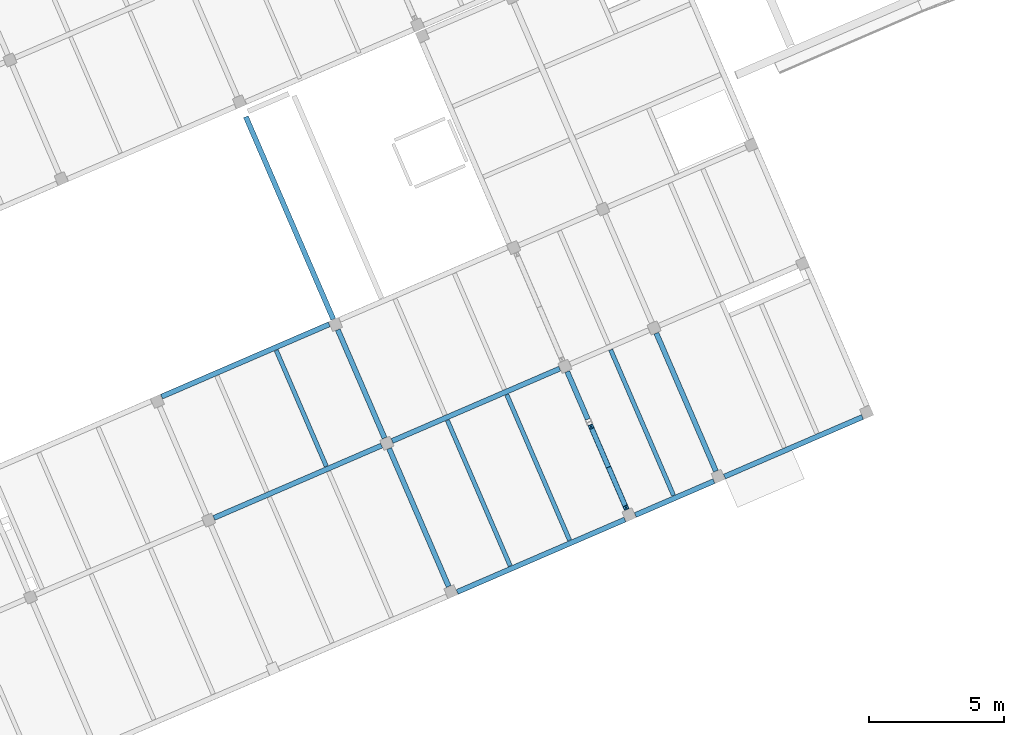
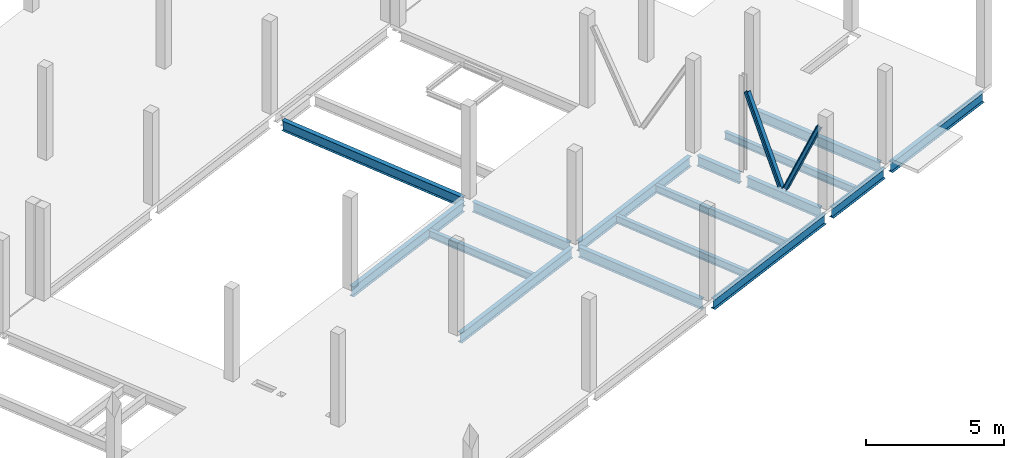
# One storey, part 10 of 24: 16 beams, 2 members.
"""IFC4 building model written with IfcOpenShell, lengths in metres."""

from ifc_helpers import new_model, entity, si_unit, converted_unit, derived_unit, direction, frame, origin, place, context, subcontext, project, spatial, line, arc, indexed_curve, outline, extrude, source, transform, mapped, material, type_object, type_shapes, element, save


model = new_model("IFC4")

# Units and contexts
model_context = context("Model", 3, precision=1e-05, world=origin(), true_north=direction((6.12323399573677e-17, 1.0)))
body_context = subcontext(model_context, "Body", "Model", "MODEL_VIEW")
ifc_project = project(units=[si_unit("LENGTHUNIT", "METRE"), si_unit("AREAUNIT", "SQUARE_METRE"), si_unit("VOLUMEUNIT", "CUBIC_METRE"), converted_unit("PLANEANGLEUNIT", "DEGREE", entity("IfcPlaneAngleMeasure", 0.0174532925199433), si_unit("PLANEANGLEUNIT", "RADIAN"), dimensions=[0, 0, 0, 0, 0, 0, 0]), si_unit("MASSUNIT", "GRAM", prefix="KILO"), derived_unit("MOMENTOFINERTIAUNIT", [(si_unit("LENGTHUNIT", "METRE"), 4)]), derived_unit("LINEARFORCEUNIT", [(si_unit("MASSUNIT", "GRAM", prefix="KILO"), 1), (si_unit("TIMEUNIT", "SECOND"), -2)]), derived_unit("WARPINGCONSTANTUNIT", [(si_unit("LENGTHUNIT", "METRE"), 6)]), derived_unit("THERMALTRANSMITTANCEUNIT", [(si_unit("MASSUNIT", "GRAM", prefix="KILO"), 1), (si_unit("THERMODYNAMICTEMPERATUREUNIT", "KELVIN"), -1), (si_unit("TIMEUNIT", "SECOND"), -3)]), derived_unit("USERDEFINED", [(si_unit("MASSUNIT", "GRAM", prefix="KILO"), 1), (si_unit("TIMEUNIT", "SECOND"), -2), (si_unit("THERMODYNAMICTEMPERATUREUNIT", "KELVIN"), -1)]), derived_unit("THERMALRESISTANCEUNIT", [(si_unit("MASSUNIT", "GRAM", prefix="KILO"), -1), (si_unit("TIMEUNIT", "SECOND"), 3), (si_unit("THERMODYNAMICTEMPERATUREUNIT", "KELVIN"), 1)])], contexts=[model_context])

# Site, building, storey
site_placement = place(None, origin())
site = spatial("IfcSite", under=ifc_project, at=site_placement, Name="Default", CompositionType="ELEMENT")
building_placement = place(site_placement, frame((12.6613425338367, -82.5732315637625, 317.15), z_axis=(0.0, 0.0, 1.0), x_axis=(-0.396377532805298, 0.918087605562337, 0.0)))
building = spatial("IfcBuilding", under=site, at=building_placement, Name="CESFAM Coyhaique", CompositionType="ELEMENT")
storey_placement = place(building_placement, frame((0.0, 0.0, 4.20000000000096)))
storey = spatial("IfcBuildingStorey", under=building, at=storey_placement, Name="Nivel 2", CompositionType="ELEMENT", Elevation=4.20000000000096)

# Beams
ifc_material = material(Name="Steel, 45-345", Category="Metal")
beam_type_1 = type_object("IfcBeamType", Name="M_W Shapes:W450X190mm", PredefinedType="BEAM", material=ifc_material)
shared_shape_1 = source(origin(), body_context, "Body", "SweptSolid", [
    extrude(outline(indexed_curve([(-0.225, -0.0950000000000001), (-0.215350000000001, -0.0950000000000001), (-0.21535, -0.01057), (-0.213109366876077, -0.00516063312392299), (-0.2077, -0.00291999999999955), (0.207699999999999, -0.00292000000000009), (0.213109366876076, -0.00516063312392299), (0.215349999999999, -0.01057), (0.215349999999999, -0.0950000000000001), (0.225, -0.0950000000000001), (0.225, 0.0950000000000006), (0.215349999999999, 0.0950000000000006), (0.215349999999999, 0.0105700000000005), (0.213109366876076, 0.00516063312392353), (0.207699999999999, 0.00292000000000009), (-0.2077, 0.00292000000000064), (-0.213109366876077, 0.00516063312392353), (-0.215350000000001, 0.0105700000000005), (-0.215350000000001, 0.0949999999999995), (-0.225, 0.0949999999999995)], segments=[line(1, 2, 3), arc(3, 4, 5), line(5, 6), arc(6, 7, 8), line(8, 9, 10, 11, 12, 13), arc(13, 14, 15), line(15, 16), arc(16, 17, 18), line(18, 19, 20, 1)], self_intersect=False)), frame((4.3815534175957, -4.39714959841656, 3.82500000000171), z_axis=(1.0, 0.0, 0.0), x_axis=(0.0, 0.0, -1.0)), (0.0, 0.0, 1.0), 5.5746),
])
type_shapes(beam_type_1, [shared_shape_1])
beam_1_placement = place(storey_placement, frame((0.0, 0.0, -4.20000000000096)))
element("IfcBeam", 1, at=beam_1_placement, inside=storey, type_object=beam_type_1, Name="M_W Shapes:W450X190mm", ObjectType="M_W Shapes:W450X190mm", PredefinedType="BEAM", context=body_context, shape_type="MappedRepresentation", body=[
    mapped(shared_shape_1, transform((0.0, 0.0, 0.0), scale=1.0)),
])
beam_type_2 = type_object("IfcBeamType", Name="M_W Shapes:W450X190mm", PredefinedType="BEAM", material=ifc_material)
shared_shape_2 = source(origin(), body_context, "Body", "SweptSolid", [
    extrude(outline(indexed_curve([(-0.225, -0.0950000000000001), (-0.215350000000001, -0.0950000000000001), (-0.21535, -0.0105699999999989), (-0.213109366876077, -0.00516063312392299), (-0.2077, -0.00291999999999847), (0.207699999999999, -0.00291999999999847), (0.213109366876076, -0.00516063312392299), (0.215349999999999, -0.0105699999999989), (0.215349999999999, -0.0950000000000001), (0.225, -0.0950000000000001), (0.225, 0.0950000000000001), (0.215349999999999, 0.0950000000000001), (0.215349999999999, 0.0105700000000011), (0.213109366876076, 0.00516063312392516), (0.207699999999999, 0.00292000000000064), (-0.2077, 0.00292000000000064), (-0.213109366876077, 0.00516063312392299), (-0.215350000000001, 0.0105700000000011), (-0.215350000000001, 0.0950000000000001), (-0.225, 0.0950000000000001)], segments=[line(1, 2, 3), arc(3, 4, 5), line(5, 6), arc(6, 7, 8), line(8, 9, 10, 11, 12, 13), arc(13, 14, 15), line(15, 16), arc(16, 17, 18), line(18, 19, 20, 1)], self_intersect=False)), frame((4.38155341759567, -11.5971495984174, 3.82500000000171), z_axis=(1.0, 0.0, 0.0), x_axis=(0.0, 0.0, -1.0)), (0.0, 0.0, 1.0), 3.32861394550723),
])
type_shapes(beam_type_2, [shared_shape_2])
beam_2_placement = place(storey_placement, frame((0.0, 0.0, -4.20000000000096)))
element("IfcBeam", 2, at=beam_2_placement, inside=storey, type_object=beam_type_2, Name="M_W Shapes:W450X190mm", ObjectType="M_W Shapes:W450X190mm", PredefinedType="BEAM", context=body_context, shape_type="MappedRepresentation", body=[
    mapped(shared_shape_2, transform((0.0, 0.0, 0.0), scale=1.0)),
])
beam_type_3 = type_object("IfcBeamType", Name="M_W Shapes:W450X190mm", PredefinedType="BEAM", material=ifc_material)
shared_shape_3 = source(origin(), body_context, "Body", "SweptSolid", [
    extrude(outline(indexed_curve([(-0.225, -0.0950000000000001), (-0.215350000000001, -0.0950000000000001), (-0.21535, -0.01057), (-0.213109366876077, -0.00516063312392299), (-0.2077, -0.00291999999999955), (0.207699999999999, -0.00292000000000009), (0.213109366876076, -0.00516063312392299), (0.215349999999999, -0.01057), (0.215349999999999, -0.0950000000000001), (0.225, -0.0950000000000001), (0.225, 0.0950000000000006), (0.215349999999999, 0.0950000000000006), (0.215349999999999, 0.0105700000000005), (0.213109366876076, 0.00516063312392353), (0.207699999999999, 0.00292000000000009), (-0.2077, 0.00292000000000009), (-0.213109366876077, 0.00516063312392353), (-0.215350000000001, 0.0105700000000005), (-0.215350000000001, 0.0949999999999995), (-0.225, 0.0950000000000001)], segments=[line(1, 2, 3), arc(3, 4, 5), line(5, 6), arc(6, 7, 8), line(8, 9, 10, 11, 12, 13), arc(13, 14, 15), line(15, 16), arc(16, 17, 18), line(18, 19, 20, 1)], self_intersect=False)), frame((10.3815534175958, -4.39714959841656, 3.82500000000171), z_axis=(1.0, 0.0, 0.0), x_axis=(0.0, 0.0, -1.0)), (0.0, 0.0, 1.0), 4.3746),
])
type_shapes(beam_type_3, [shared_shape_3])
beam_3_placement = place(storey_placement, frame((0.0, 0.0, -4.20000000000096)))
element("IfcBeam", 3, at=beam_3_placement, inside=storey, type_object=beam_type_3, Name="M_W Shapes:W450X190mm", ObjectType="M_W Shapes:W450X190mm", PredefinedType="BEAM", context=body_context, shape_type="MappedRepresentation", body=[
    mapped(shared_shape_3, transform((0.0, 0.0, 0.0), scale=1.0)),
])
beam_type_4 = type_object("IfcBeamType", Name="M_W Shapes:W450X190mm", PredefinedType="BEAM", material=ifc_material)
shared_shape_4 = source(origin(), body_context, "Body", "SweptSolid", [
    extrude(outline(indexed_curve([(-0.0950000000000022, -0.225000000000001), (0.0949999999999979, -0.225000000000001), (0.0949999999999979, -0.21535), (0.0105699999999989, -0.21535), (0.00516063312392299, -0.213109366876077), (0.00291999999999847, -0.2077), (0.00291999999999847, 0.207699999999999), (0.00516063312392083, 0.213109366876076), (0.0105699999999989, 0.21535), (0.0949999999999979, 0.21535), (0.0949999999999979, 0.224999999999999), (-0.0950000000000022, 0.224999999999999), (-0.0950000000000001, 0.21535), (-0.0105700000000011, 0.215349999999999), (-0.00516063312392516, 0.213109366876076), (-0.00292000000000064, 0.207699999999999), (-0.00292000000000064, -0.2077), (-0.00516063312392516, -0.213109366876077), (-0.0105700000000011, -0.21535), (-0.0950000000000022, -0.21535)], segments=[line(1, 2, 3, 4), arc(4, 5, 6), line(6, 7), arc(7, 8, 9), line(9, 10, 11, 12, 13, 14), arc(14, 15, 16), line(16, 17), arc(17, 18, 19), line(19, 20, 1)], self_intersect=False)), frame((10.1688534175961, -4.18444959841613, 3.82500000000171), z_axis=(0.0, 1.0, 0.0), x_axis=(-1.0, 0.0, 0.0)), (0.0, 0.0, 1.0), 6.7746),
])
type_shapes(beam_type_4, [shared_shape_4])
beam_4_placement = place(storey_placement, frame((0.0, 0.0, -4.20000000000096)))
element("IfcBeam", 4, at=beam_4_placement, inside=storey, type_object=beam_type_4, Name="M_W Shapes:W450X190mm", ObjectType="M_W Shapes:W450X190mm", PredefinedType="BEAM", context=body_context, shape_type="MappedRepresentation", body=[
    mapped(shared_shape_4, transform((0.0, 0.0, 0.0), scale=1.0)),
])
beam_type_5 = type_object("IfcBeamType", Name="M_W Shapes:W450X190mm", PredefinedType="BEAM", material=ifc_material)
shared_shape_5 = source(origin(), body_context, "Body", "SweptSolid", [
    extrude(outline(indexed_curve([(-0.0950000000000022, -0.225000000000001), (0.0949999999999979, -0.225000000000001), (0.0949999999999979, -0.21535), (0.0105699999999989, -0.21535), (0.00516063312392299, -0.213109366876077), (0.00291999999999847, -0.2077), (0.00291999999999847, 0.207699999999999), (0.00516063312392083, 0.213109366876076), (0.0105699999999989, 0.21535), (0.0949999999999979, 0.21535), (0.0949999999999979, 0.224999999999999), (-0.0950000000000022, 0.224999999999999), (-0.0950000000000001, 0.21535), (-0.0105700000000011, 0.215349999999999), (-0.00516063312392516, 0.213109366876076), (-0.00292000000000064, 0.207699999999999), (-0.00292000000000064, -0.2077), (-0.00516063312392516, -0.213109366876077), (-0.0105700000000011, -0.21535), (-0.0950000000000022, -0.21535)], segments=[line(1, 2, 3, 4), arc(4, 5, 6), line(6, 7), arc(7, 8, 9), line(9, 10, 11, 12, 13, 14), arc(14, 15, 16), line(16, 17), arc(17, 18, 19), line(19, 20, 1)], self_intersect=False)), frame((15.0688534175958, -4.18444959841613, 3.82500000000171), z_axis=(0.0, 1.0, 0.0), x_axis=(-1.0, 0.0, 0.0)), (0.0, 0.0, 1.0), 6.7746),
])
type_shapes(beam_type_5, [shared_shape_5])
beam_5_placement = place(storey_placement, frame((0.0, 0.0, -4.20000000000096)))
element("IfcBeam", 5, at=beam_5_placement, inside=storey, type_object=beam_type_5, Name="M_W Shapes:W450X190mm", ObjectType="M_W Shapes:W450X190mm", PredefinedType="BEAM", context=body_context, shape_type="MappedRepresentation", body=[
    mapped(shared_shape_5, transform((0.0, 0.0, 0.0), scale=1.0)),
])
beam_type_6 = type_object("IfcBeamType", Name="M_W Shapes:W450X190mm", PredefinedType="BEAM", material=ifc_material)
shared_shape_6 = source(origin(), body_context, "Body", "SweptSolid", [
    extrude(outline(indexed_curve([(-0.0950000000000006, -0.225000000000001), (0.0950000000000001, -0.225000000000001), (0.0950000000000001, -0.21535), (0.01057, -0.21535), (0.00516063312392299, -0.213109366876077), (0.00291999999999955, -0.2077), (0.00291999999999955, 0.207699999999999), (0.00516063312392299, 0.213109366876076), (0.01057, 0.21535), (0.094999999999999, 0.21535), (0.0949999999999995, 0.224999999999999), (-0.0950000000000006, 0.224999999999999), (-0.0950000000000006, 0.21535), (-0.0105700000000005, 0.215349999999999), (-0.00516063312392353, 0.213109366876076), (-0.00292000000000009, 0.207699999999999), (-0.00292000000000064, -0.2077), (-0.00516063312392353, -0.213109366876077), (-0.0105700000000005, -0.21535), (-0.0950000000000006, -0.21535)], segments=[line(1, 2, 3, 4), arc(4, 5, 6), line(6, 7), arc(7, 8, 9), line(9, 10, 11, 12, 13, 14), arc(14, 15, 16), line(16, 17), arc(17, 18, 19), line(19, 20, 1)], self_intersect=False)), frame((4.06885341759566, -11.384449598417, 3.82500000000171), z_axis=(0.0, 1.0, 0.0), x_axis=(-1.0, 0.0, 0.0)), (0.0, 0.0, 1.0), 6.7746),
])
type_shapes(beam_type_6, [shared_shape_6])
beam_6_placement = place(storey_placement, frame((0.0, 0.0, -4.20000000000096)))
element("IfcBeam", 6, at=beam_6_placement, inside=storey, type_object=beam_type_6, Name="M_W Shapes:W450X190mm", ObjectType="M_W Shapes:W450X190mm", PredefinedType="BEAM", context=body_context, shape_type="MappedRepresentation", body=[
    mapped(shared_shape_6, transform((0.0, 0.0, 0.0), scale=1.0)),
])
beam_type_7 = type_object("IfcBeamType", Name="M_W Shapes:W450X190mm", PredefinedType="BEAM", material=ifc_material)
shared_shape_7 = source(origin(), body_context, "Body", "SweptSolid", [
    extrude(outline(indexed_curve([(-0.0950000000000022, -0.225000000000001), (0.0949999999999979, -0.225000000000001), (0.0949999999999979, -0.21535), (0.0105699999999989, -0.21535), (0.00516063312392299, -0.213109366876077), (0.00291999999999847, -0.2077), (0.00291999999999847, 0.207699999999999), (0.00516063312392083, 0.213109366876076), (0.0105699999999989, 0.21535), (0.0949999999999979, 0.21535), (0.0949999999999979, 0.224999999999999), (-0.0950000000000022, 0.224999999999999), (-0.0950000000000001, 0.21535), (-0.0105700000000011, 0.215349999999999), (-0.00516063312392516, 0.213109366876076), (-0.00292000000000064, 0.207699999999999), (-0.00292000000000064, -0.2077), (-0.00516063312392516, -0.213109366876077), (-0.0105700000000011, -0.21535), (-0.0950000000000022, -0.21535)], segments=[line(1, 2, 3, 4), arc(4, 5, 6), line(6, 7), arc(7, 8, 9), line(9, 10, 11, 12, 13, 14), arc(14, 15, 16), line(16, 17), arc(17, 18, 19), line(19, 20, 1)], self_intersect=False)), frame((10.1688534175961, -11.384449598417, 3.82500000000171), z_axis=(0.0, 1.0, 0.0), x_axis=(-1.0, 0.0, 0.0)), (0.0, 0.0, 1.0), 6.7746),
])
type_shapes(beam_type_7, [shared_shape_7])
beam_7_placement = place(storey_placement, frame((0.0, 0.0, -4.20000000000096)))
element("IfcBeam", 7, at=beam_7_placement, inside=storey, type_object=beam_type_7, Name="M_W Shapes:W450X190mm", ObjectType="M_W Shapes:W450X190mm", PredefinedType="BEAM", context=body_context, shape_type="MappedRepresentation", body=[
    mapped(shared_shape_7, transform((0.0, 0.0, 0.0), scale=1.0)),
])
beam_type_8 = type_object("IfcBeamType", Name="M_W Shapes:W450X190mm", PredefinedType="BEAM", material=ifc_material)
shared_shape_8 = source(origin(), body_context, "Body", "SweptSolid", [
    extrude(outline(indexed_curve([(-0.0949999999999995, -0.225000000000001), (0.0950000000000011, -0.225000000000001), (0.0950000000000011, -0.21535), (0.0105700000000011, -0.21535), (0.00516063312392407, -0.213109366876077), (0.00292000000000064, -0.2077), (0.00292000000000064, 0.207699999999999), (0.00516063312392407, 0.213109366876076), (0.0105700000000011, 0.21535), (0.0950000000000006, 0.21535), (0.0950000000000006, 0.224999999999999), (-0.0949999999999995, 0.224999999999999), (-0.0949999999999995, 0.21535), (-0.0105699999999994, 0.215349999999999), (-0.00516063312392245, 0.213109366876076), (-0.00291999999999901, 0.207699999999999), (-0.00291999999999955, -0.2077), (-0.00516063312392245, -0.213109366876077), (-0.0105699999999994, -0.21535), (-0.0949999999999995, -0.21535)], segments=[line(1, 2, 3, 4), arc(4, 5, 6), line(6, 7), arc(7, 8, 9), line(9, 10, 11, 12, 13, 14), arc(14, 15, 16), line(16, 17), arc(17, 18, 19), line(19, 20, 1)], self_intersect=False)), frame((4.06885341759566, -14.9844495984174, 3.82500000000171), z_axis=(0.0, 1.0, 0.0), x_axis=(-1.0, 0.0, 0.0)), (0.0, 0.0, 1.0), 3.1746),
])
type_shapes(beam_type_8, [shared_shape_8])
beam_8_placement = place(storey_placement, frame((0.0, 0.0, -4.20000000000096)))
element("IfcBeam", 8, at=beam_8_placement, inside=storey, type_object=beam_type_8, Name="M_W Shapes:W450X190mm", ObjectType="M_W Shapes:W450X190mm", PredefinedType="BEAM", context=body_context, shape_type="MappedRepresentation", body=[
    mapped(shared_shape_8, transform((0.0, 0.0, 0.0), scale=1.0)),
])
beam_type_9 = type_object("IfcBeamType", Name="M_W Shapes:W450X190mm", PredefinedType="BEAM", material=ifc_material)
shared_shape_9 = source(origin(), body_context, "Body", "SweptSolid", [
    extrude(outline(indexed_curve([(-0.225, -0.0949999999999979), (-0.215350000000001, -0.0949999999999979), (-0.21535, -0.0105699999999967), (-0.213109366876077, -0.00516063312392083), (-0.2077, -0.0029199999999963), (0.207699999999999, -0.0029199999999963), (0.213109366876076, -0.00516063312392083), (0.215349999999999, -0.0105699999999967), (0.215349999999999, -0.0949999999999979), (0.225, -0.0949999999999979), (0.225, 0.0950000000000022), (0.215349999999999, 0.0950000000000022), (0.215349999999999, 0.0105700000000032), (0.213109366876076, 0.00516063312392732), (0.207699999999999, 0.0029200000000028), (-0.2077, 0.0029200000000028), (-0.213109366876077, 0.00516063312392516), (-0.215350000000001, 0.0105700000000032), (-0.215350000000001, 0.0950000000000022), (-0.225, 0.0950000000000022)], segments=[line(1, 2, 3), arc(3, 4, 5), line(5, 6), arc(6, 7, 8), line(8, 9, 10, 11, 12, 13), arc(13, 14, 15), line(15, 16), arc(16, 17, 18), line(18, 19, 20, 1)], self_intersect=False)), frame((4.38155341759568, -15.1971495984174, 3.82500000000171), z_axis=(1.0, 0.0, 0.0), x_axis=(0.0, 0.0, -1.0)), (0.0, 0.0, 1.0), 5.5746),
])
type_shapes(beam_type_9, [shared_shape_9])
beam_9_placement = place(storey_placement, frame((0.0, 0.0, -4.20000000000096)))
element("IfcBeam", 9, at=beam_9_placement, inside=storey, type_object=beam_type_9, Name="M_W Shapes:W450X190mm", ObjectType="M_W Shapes:W450X190mm", PredefinedType="BEAM", context=body_context, shape_type="MappedRepresentation", body=[
    mapped(shared_shape_9, transform((0.0, 0.0, 0.0), scale=1.0)),
])
beam_type_10 = type_object("IfcBeamType", Name="M_W Shapes:W450X190mm", PredefinedType="BEAM", material=ifc_material)
shared_shape_10 = source(origin(), body_context, "Body", "SweptSolid", [
    extrude(outline(indexed_curve([(-0.0950000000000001, -0.225000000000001), (0.0950000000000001, -0.225000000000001), (0.0950000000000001, -0.21535), (0.01057, -0.21535), (0.00516063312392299, -0.213109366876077), (0.00291999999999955, -0.2077), (0.00292000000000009, 0.207699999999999), (0.00516063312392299, 0.213109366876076), (0.01057, 0.21535), (0.0949999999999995, 0.21535), (0.0949999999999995, 0.224999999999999), (-0.0950000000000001, 0.224999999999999), (-0.0950000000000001, 0.21535), (-0.0105700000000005, 0.215349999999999), (-0.00516063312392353, 0.213109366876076), (-0.00292000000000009, 0.207699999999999), (-0.00292000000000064, -0.2077), (-0.00516063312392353, -0.213109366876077), (-0.0105700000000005, -0.21535), (-0.0950000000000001, -0.21535)], segments=[line(1, 2, 3, 4), arc(4, 5, 6), line(6, 7), arc(7, 8, 9), line(9, 10, 11, 12, 13, 14), arc(14, 15, 16), line(16, 17), arc(17, 18, 19), line(19, 20, 1)], self_intersect=False)), frame((4.06885341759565, -20.9844495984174, 3.82500000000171), z_axis=(0.0, 1.0, 0.0), x_axis=(-1.0, 0.0, 0.0)), (0.0, 0.0, 1.0), 5.5746),
])
type_shapes(beam_type_10, [shared_shape_10])
beam_10_placement = place(storey_placement, frame((0.0, 0.0, -4.20000000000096)))
element("IfcBeam", 10, at=beam_10_placement, inside=storey, type_object=beam_type_10, Name="M_W Shapes:W450X190mm", ObjectType="M_W Shapes:W450X190mm", PredefinedType="BEAM", context=body_context, shape_type="MappedRepresentation", body=[
    mapped(shared_shape_10, transform((0.0, 0.0, 0.0), scale=1.0)),
])
beam_type_11 = type_object("IfcBeamType", Name="M_W Shapes:W450X190mm", PredefinedType="BEAM", material=ifc_material)
shared_shape_11 = source(origin(), body_context, "Body", "SweptSolid", [
    extrude(outline(indexed_curve([(-0.225, -0.0950000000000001), (-0.215350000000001, -0.0950000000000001), (-0.21535, -0.0105699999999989), (-0.213109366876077, -0.00516063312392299), (-0.2077, -0.00291999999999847), (0.207699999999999, -0.00291999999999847), (0.213109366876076, -0.00516063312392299), (0.215349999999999, -0.0105699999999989), (0.215349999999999, -0.0950000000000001), (0.225, -0.0950000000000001), (0.225, 0.0950000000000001), (0.215349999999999, 0.0950000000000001), (0.215349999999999, 0.0105700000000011), (0.213109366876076, 0.00516063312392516), (0.207699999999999, 0.00292000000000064), (-0.2077, 0.00292000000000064), (-0.213109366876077, 0.00516063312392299), (-0.215350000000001, 0.0105700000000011), (-0.215350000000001, 0.0950000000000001), (-0.225, 0.0950000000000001)], segments=[line(1, 2, 3), arc(3, 4, 5), line(5, 6), arc(6, 7, 8), line(8, 9, 10, 11, 12, 13), arc(13, 14, 15), line(15, 16), arc(16, 17, 18), line(18, 19, 20, 1)], self_intersect=False)), frame((8.03155341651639, -11.5971495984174, 3.82500000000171), z_axis=(1.0, 0.0, 0.0), x_axis=(0.0, 0.0, -1.0)), (0.0, 0.0, 1.0), 1.9246),
])
type_shapes(beam_type_11, [shared_shape_11])
beam_11_placement = place(storey_placement, frame((0.0, 0.0, -4.20000000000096)))
element("IfcBeam", 11, at=beam_11_placement, inside=storey, type_object=beam_type_11, Name="M_W Shapes:W450X190mm", ObjectType="M_W Shapes:W450X190mm", PredefinedType="BEAM", context=body_context, shape_type="MappedRepresentation", body=[
    mapped(shared_shape_11, transform((0.0, 0.0, 0.0), scale=1.0)),
])

# Members
member_type_1 = type_object("IfcMemberType", Name="M_Double C-Channel:doble T HEB 180", PredefinedType="BRACE", material=ifc_material)
shared_shape_12 = source(origin(), body_context, "Body", "SweptSolid", [
    extrude(outline(indexed_curve([(-0.045425, -0.0899999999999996), (0.0445749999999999, -0.0899999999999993), (0.0397422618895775, -0.0783327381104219), (0.0280749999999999, -0.0735000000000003), (-0.0272249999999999, -0.0647413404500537), (-0.0272249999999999, 0.0647413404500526), (0.0280750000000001, 0.0734999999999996), (0.0397422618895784, 0.078332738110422), (0.044575, 0.0900000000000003), (-0.045425, 0.0900000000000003)], segments=[line(1, 2), arc(2, 3, 4), line(4, 5, 6, 7), arc(7, 8, 9), line(9, 10, 1)], self_intersect=False)), frame((-2.32011616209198, -0.0454249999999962, 0.0), z_axis=(1.0, 0.0, 0.0), x_axis=(0.0, -1.0, 0.0)), (0.0, 0.0, 1.0), 3.75808870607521),
    extrude(outline(indexed_curve([(-0.0899999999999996, -0.045425), (0.0900000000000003, -0.045425), (0.0900000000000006, 0.044575), (0.0783327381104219, 0.0397422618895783), (0.0734999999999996, 0.028075), (0.0647413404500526, -0.0272249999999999), (-0.0647413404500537, -0.0272249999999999), (-0.0735000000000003, 0.0280749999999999), (-0.0783327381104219, 0.0397422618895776), (-0.0899999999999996, 0.0445749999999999)], segments=[line(1, 2, 3), arc(3, 4, 5), line(5, 6, 7, 8), arc(8, 9, 10), line(10, 1)], self_intersect=False)), frame((-2.32011616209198, 0.0454250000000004, 0.0), z_axis=(1.0, 0.0, 0.0), x_axis=(0.0, 0.0, -1.0)), (0.0, 0.0, 1.0), 3.75808870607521),
])
type_shapes(member_type_1, [shared_shape_12])
member_1_placement = place(storey_placement, frame((5.04937096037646, -11.5971495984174, 2.08786676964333), z_axis=(0.910916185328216, 0.0, 0.412591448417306), x_axis=(-0.412591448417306, 0.0, 0.910916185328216)))
element("IfcMember", 12, at=member_1_placement, inside=storey, type_object=member_type_1, Name="M_Double C-Channel:doble T HEB 180", ObjectType="M_Double C-Channel:doble T HEB 180", PredefinedType="BRACE", context=body_context, shape_type="MappedRepresentation", body=[
    mapped(shared_shape_12, transform((0.0, 0.0, 0.0), scale=1.0)),
])
member_type_2 = type_object("IfcMemberType", Name="M_Double C-Channel:doble T HEB 180", PredefinedType="BRACE", material=ifc_material)
shared_shape_13 = source(origin(), body_context, "Body", "SweptSolid", [
    extrude(outline(indexed_curve([(-0.0899999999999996, -0.045425), (0.0900000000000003, -0.045425), (0.0900000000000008, 0.044575), (0.078332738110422, 0.0397422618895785), (0.0734999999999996, 0.028075), (0.0647413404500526, -0.0272249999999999), (-0.0647413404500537, -0.0272249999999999), (-0.0735000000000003, 0.0280749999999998), (-0.0783327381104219, 0.0397422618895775), (-0.0899999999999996, 0.0445749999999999)], segments=[line(1, 2, 3), arc(3, 4, 5), line(5, 6, 7, 8), arc(8, 9, 10), line(10, 1)], self_intersect=False)), frame((-2.29993513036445, 0.0454249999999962, 0.0), z_axis=(1.0, 0.0, 0.0), x_axis=(0.0, 0.0, -1.0)), (0.0, 0.0, 1.0), 3.9272527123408),
    extrude(outline(indexed_curve([(-0.045425, -0.0899999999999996), (0.0445749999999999, -0.0899999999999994), (0.0397422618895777, -0.078332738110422), (0.0280749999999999, -0.0735000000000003), (-0.0272249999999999, -0.0647413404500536), (-0.0272249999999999, 0.0647413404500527), (0.0280749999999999, 0.0734999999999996), (0.0397422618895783, 0.0783327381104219), (0.044575, 0.0900000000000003), (-0.045425, 0.0900000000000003)], segments=[line(1, 2), arc(2, 3, 4), line(4, 5, 6, 7), arc(7, 8, 9), line(9, 10, 1)], self_intersect=False)), frame((-2.29993513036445, -0.0454250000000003, 0.0), z_axis=(1.0, 0.0, 0.0), x_axis=(0.0, -1.0, 0.0)), (0.0, 0.0, 1.0), 3.9272527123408),
])
type_shapes(member_type_2, [shared_shape_13])
member_2_placement = place(storey_placement, frame((7.08905128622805, -11.5971495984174, 2.08948856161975), z_axis=(-0.918865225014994, 0.0, 0.394571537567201), x_axis=(0.3945715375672, 0.0, 0.918865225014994)))
element("IfcMember", 13, at=member_2_placement, inside=storey, type_object=member_type_2, Name="M_Double C-Channel:doble T HEB 180", ObjectType="M_Double C-Channel:doble T HEB 180", PredefinedType="BRACE", context=body_context, shape_type="MappedRepresentation", body=[
    mapped(shared_shape_13, transform((0.0, 0.0, 0.0), scale=1.0)),
])

# Beams
beam_type_12 = type_object("IfcBeamType", Name="M_W Shapes:W330X160mm", PredefinedType="BEAM", material=ifc_material)
shared_shape_14 = source(origin(), body_context, "Body", "SweptSolid", [
    extrude(outline(indexed_curve([(-0.164999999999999, -0.0799999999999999), (-0.15535, -0.0799999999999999), (-0.15535, -0.0105699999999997), (-0.153109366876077, -0.00516063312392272), (-0.1477, -0.00291999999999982), (0.1477, -0.00291999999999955), (0.153109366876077, -0.00516063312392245), (0.15535, -0.0105699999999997), (0.15535, -0.0799999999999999), (0.165, -0.0799999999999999), (0.165000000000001, 0.0800000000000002), (0.15535, 0.0800000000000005), (0.15535, 0.0105700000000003), (0.153109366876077, 0.00516063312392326), (0.1477, 0.00292000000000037), (-0.1477, 0.00292000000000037), (-0.153109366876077, 0.00516063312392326), (-0.15535, 0.0105700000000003), (-0.15535, 0.0799999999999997), (-0.164999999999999, 0.0799999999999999)], segments=[line(1, 2, 3), arc(3, 4, 5), line(5, 6), arc(6, 7, 8), line(8, 9, 10, 11, 12, 13), arc(13, 14, 15), line(15, 16), arc(16, 17, 18), line(18, 19, 20, 1)], self_intersect=False)), frame((10.2765534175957, -1.99714959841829, 3.88500000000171), z_axis=(1.0, 0.0, 0.0), x_axis=(0.0, 0.0, -1.0)), (0.0, 0.0, 1.0), 4.6846),
])
type_shapes(beam_type_12, [shared_shape_14])
beam_12_placement = place(storey_placement, frame((0.0, 0.0, -4.20000000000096)))
element("IfcBeam", 14, at=beam_12_placement, inside=storey, type_object=beam_type_12, Name="M_W Shapes:W330X160mm", ObjectType="M_W Shapes:W330X160mm", PredefinedType="BEAM", context=body_context, shape_type="MappedRepresentation", body=[
    mapped(shared_shape_14, transform((0.0, 0.0, 0.0), scale=1.0)),
])
beam_type_13 = type_object("IfcBeamType", Name="M_W Shapes:W330X160mm", PredefinedType="BEAM", material=ifc_material)
shared_shape_15 = source(origin(), body_context, "Body", "SweptSolid", [
    extrude(outline(indexed_curve([(-0.164999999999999, -0.0799999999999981), (-0.15535, -0.0799999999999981), (-0.15535, -0.0105699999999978), (-0.153109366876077, -0.00516063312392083), (-0.1477, -0.00291999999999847), (0.1477, -0.00291999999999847), (0.153109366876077, -0.00516063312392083), (0.15535, -0.0105699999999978), (0.15535, -0.0799999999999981), (0.165, -0.0799999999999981), (0.165, 0.0800000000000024), (0.15535, 0.0800000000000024), (0.15535, 0.0105700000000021), (0.153109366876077, 0.00516063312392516), (0.1477, 0.00292000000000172), (-0.1477, 0.00292000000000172), (-0.153109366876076, 0.00516063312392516), (-0.15535, 0.0105700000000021), (-0.15535, 0.0800000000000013), (-0.164999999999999, 0.0800000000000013)], segments=[line(1, 2, 3), arc(3, 4, 5), line(5, 6), arc(6, 7, 8), line(8, 9, 10, 11, 12, 13), arc(13, 14, 15), line(15, 16), arc(16, 17, 18), line(18, 19, 20, 1)], self_intersect=False)), frame((4.17655341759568, -6.7971495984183, 3.88500000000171), z_axis=(1.0, 0.0, 0.0), x_axis=(0.0, 0.0, -1.0)), (0.0, 0.0, 1.0), 5.8846),
])
type_shapes(beam_type_13, [shared_shape_15])
beam_13_placement = place(storey_placement, frame((0.0, 0.0, -4.20000000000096)))
element("IfcBeam", 15, at=beam_13_placement, inside=storey, type_object=beam_type_13, Name="M_W Shapes:W330X160mm", ObjectType="M_W Shapes:W330X160mm", PredefinedType="BEAM", context=body_context, shape_type="MappedRepresentation", body=[
    mapped(shared_shape_15, transform((0.0, 0.0, 0.0), scale=1.0)),
])
beam_type_14 = type_object("IfcBeamType", Name="M_W Shapes:W330X160mm", PredefinedType="BEAM", material=ifc_material)
shared_shape_16 = source(origin(), body_context, "Body", "SweptSolid", [
    extrude(outline(indexed_curve([(-0.164999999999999, -0.0800000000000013), (-0.15535, -0.0800000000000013), (-0.15535, -0.0105700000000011), (-0.153109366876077, -0.00516063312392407), (-0.1477, -0.00292000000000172), (0.1477, -0.00292000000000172), (0.153109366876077, -0.00516063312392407), (0.15535, -0.0105700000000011), (0.15535, -0.0800000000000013), (0.165, -0.0800000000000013), (0.165, 0.0799999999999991), (0.15535, 0.0799999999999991), (0.15535, 0.0105699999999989), (0.153109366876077, 0.00516063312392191), (0.1477, 0.00291999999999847), (-0.1477, 0.00291999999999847), (-0.153109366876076, 0.00516063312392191), (-0.15535, 0.0105699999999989), (-0.15535, 0.0799999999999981), (-0.164999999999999, 0.0799999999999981)], segments=[line(1, 2, 3), arc(3, 4, 5), line(5, 6), arc(6, 7, 8), line(8, 9, 10, 11, 12, 13), arc(13, 14, 15), line(15, 16), arc(16, 17, 18), line(18, 19, 20, 1)], self_intersect=False)), frame((4.17655341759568, -9.19714959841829, 3.88500000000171), z_axis=(1.0, 0.0, 0.0), x_axis=(0.0, 0.0, -1.0)), (0.0, 0.0, 1.0), 5.8846),
])
type_shapes(beam_type_14, [shared_shape_16])
beam_14_placement = place(storey_placement, frame((0.0, 0.0, -4.20000000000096)))
element("IfcBeam", 16, at=beam_14_placement, inside=storey, type_object=beam_type_14, Name="M_W Shapes:W330X160mm", ObjectType="M_W Shapes:W330X160mm", PredefinedType="BEAM", context=body_context, shape_type="MappedRepresentation", body=[
    mapped(shared_shape_16, transform((0.0, 0.0, 0.0), scale=1.0)),
])
beam_type_15 = type_object("IfcBeamType", Name="M_W Shapes:W330X160mm", PredefinedType="BEAM", material=ifc_material)
shared_shape_17 = source(origin(), body_context, "Body", "SweptSolid", [
    extrude(outline(indexed_curve([(-0.164999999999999, -0.0799999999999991), (-0.15535, -0.0799999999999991), (-0.15535, -0.0105699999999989), (-0.153109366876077, -0.00516063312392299), (-0.1477, -0.00291999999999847), (0.1477, -0.00291999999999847), (0.153109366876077, -0.00516063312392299), (0.15535, -0.0105699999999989), (0.15535, -0.0799999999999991), (0.165, -0.0799999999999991), (0.165, 0.0800000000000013), (0.15535, 0.0800000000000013), (0.15535, 0.0105700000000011), (0.153109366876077, 0.00516063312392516), (0.1477, 0.00292000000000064), (-0.1477, 0.00292000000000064), (-0.153109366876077, 0.00516063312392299), (-0.15535, 0.0105700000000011), (-0.15535, 0.0800000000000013), (-0.164999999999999, 0.0800000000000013)], segments=[line(1, 2, 3), arc(3, 4, 5), line(5, 6), arc(6, 7, 8), line(8, 9, 10, 11, 12, 13), arc(13, 14, 15), line(15, 16), arc(16, 17, 18), line(18, 19, 20, 1)], self_intersect=False)), frame((4.17655341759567, -13.3971495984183, 3.88500000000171), z_axis=(1.0, 0.0, 0.0), x_axis=(0.0, 0.0, -1.0)), (0.0, 0.0, 1.0), 5.8846),
])
type_shapes(beam_type_15, [shared_shape_17])
beam_15_placement = place(storey_placement, frame((0.0, 0.0, -4.20000000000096)))
element("IfcBeam", 17, at=beam_15_placement, inside=storey, type_object=beam_type_15, Name="M_W Shapes:W330X160mm", ObjectType="M_W Shapes:W330X160mm", PredefinedType="BEAM", context=body_context, shape_type="MappedRepresentation", body=[
    mapped(shared_shape_17, transform((0.0, 0.0, 0.0), scale=1.0)),
])
beam_type_16 = type_object("IfcBeamType", Name="M_W Shapes:W450X190mm", PredefinedType="BEAM", material=ifc_material)
shared_shape_18 = source(origin(), body_context, "Body", "SweptSolid", [
    extrude(outline(indexed_curve([(-0.225, -0.0950000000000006), (-0.215350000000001, -0.0950000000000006), (-0.21535, -0.0105700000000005), (-0.213109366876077, -0.00516063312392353), (-0.2077, -0.00292000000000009), (0.207699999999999, -0.00292000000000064), (0.213109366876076, -0.00516063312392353), (0.215349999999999, -0.0105700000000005), (0.215349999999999, -0.0950000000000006), (0.225, -0.0950000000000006), (0.225, 0.0950000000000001), (0.215349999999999, 0.0950000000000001), (0.215349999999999, 0.01057), (0.213109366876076, 0.00516063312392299), (0.207699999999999, 0.00291999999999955), (-0.2077, 0.00292000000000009), (-0.213109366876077, 0.00516063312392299), (-0.215350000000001, 0.01057), (-0.215350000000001, 0.094999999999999), (-0.225, 0.094999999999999)], segments=[line(1, 2, 3), arc(3, 4, 5), line(5, 6), arc(6, 7, 8), line(8, 9, 10, 11, 12, 13), arc(13, 14, 15), line(15, 16), arc(16, 17, 18), line(18, 19, 20, 1)], self_intersect=False)), frame((15.1815534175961, -4.39714959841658, 3.82500000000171), z_axis=(1.0, 0.0, 0.0), x_axis=(0.0, 0.0, -1.0)), (0.0, 0.0, 1.0), 8.1846),
])
type_shapes(beam_type_16, [shared_shape_18])
beam_16_placement = place(storey_placement, frame((0.0, 0.0, -4.20000000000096)))
element("IfcBeam", 18, at=beam_16_placement, inside=storey, type_object=beam_type_16, Name="M_W Shapes:W450X190mm", ObjectType="M_W Shapes:W450X190mm", PredefinedType="BEAM", context=body_context, shape_type="MappedRepresentation", body=[
    mapped(shared_shape_18, transform((0.0, 0.0, 0.0), scale=1.0)),
])

save(model, "model.ifc")
